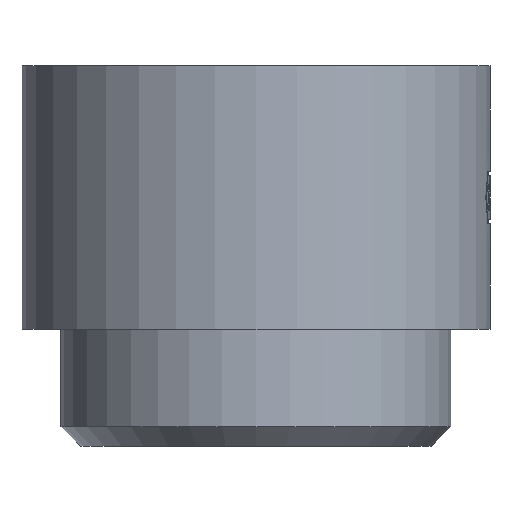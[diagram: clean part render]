
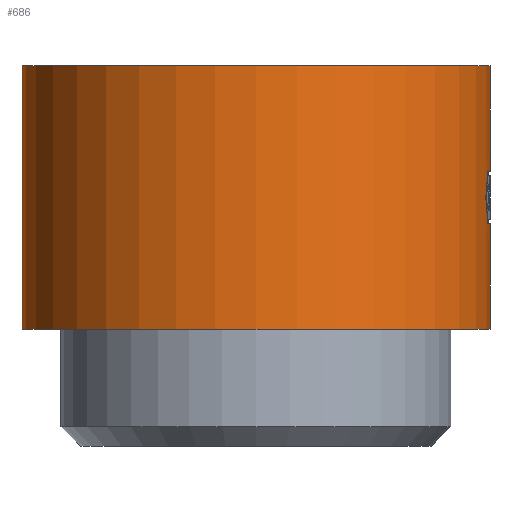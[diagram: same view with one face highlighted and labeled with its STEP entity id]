
A CAD part, front view. The second image highlights one B-rep face of the part: STEP entity #686.
In plain terms, the highlighted cylindrical face has radius 12 mm (diameter 24 mm), a partial arc.
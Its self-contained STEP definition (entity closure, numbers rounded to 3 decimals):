
#316 = VERTEX_POINT ( 'NONE', #1228 ) ;
#317 = EDGE_CURVE ( 'NONE', #365, #326, #1227, .T. ) ;
#325 = EDGE_CURVE ( 'NONE', #327, #328, #1173, .T. ) ;
#326 = VERTEX_POINT ( 'NONE', #1169 ) ;
#327 = VERTEX_POINT ( 'NONE', #1168 ) ;
#328 = VERTEX_POINT ( 'NONE', #1167 ) ;
#329 = VERTEX_POINT ( 'NONE', #1166 ) ;
#365 = VERTEX_POINT ( 'NONE', #1315 ) ;
#369 = EDGE_CURVE ( 'NONE', #316, #329, #1314, .T. ) ;
#403 = VERTEX_POINT ( 'NONE', #1206 ) ;
#503 = VERTEX_POINT ( 'NONE', #1598 ) ;
#600 = ORIENTED_EDGE ( 'NONE', *, *, #325, .F. ) ;
#609 = ORIENTED_EDGE ( 'NONE', *, *, #610, .F. ) ;
#610 = EDGE_CURVE ( 'NONE', #403, #503, #1629, .T. ) ;
#614 = ORIENTED_EDGE ( 'NONE', *, *, #369, .T. ) ;
#615 = ORIENTED_EDGE ( 'NONE', *, *, #616, .F. ) ;
#616 = EDGE_CURVE ( 'NONE', #328, #329, #1488, .T. ) ;
#641 = ORIENTED_EDGE ( 'NONE', *, *, #642, .F. ) ;
#642 = EDGE_CURVE ( 'NONE', #316, #403, #1511, .T. ) ;
#646 = EDGE_CURVE ( 'NONE', #327, #365, #1612, .T. ) ;
#647 = ORIENTED_EDGE ( 'NONE', *, *, #317, .T. ) ;
#648 = ORIENTED_EDGE ( 'NONE', *, *, #652, .F. ) ;
#649 = VERTEX_POINT ( 'NONE', #1607 ) ;
#652 = EDGE_CURVE ( 'NONE', #649, #326, #1606, .T. ) ;
#653 = ORIENTED_EDGE ( 'NONE', *, *, #654, .F. ) ;
#654 = EDGE_CURVE ( 'NONE', #503, #649, #1600, .T. ) ;
#656 = ORIENTED_EDGE ( 'NONE', *, *, #646, .T. ) ;
#659 = EDGE_LOOP ( 'NONE', ( #600, #656, #647, #648, #653, #609, #641, #614, #615 ) ) ;
#686 = ADVANCED_FACE ( 'NONE', ( #1678 ), #1685, .T. ) ;
#1166 = CARTESIAN_POINT ( 'NONE',  ( 12., 0., 0. ) ) ;
#1167 = CARTESIAN_POINT ( 'NONE',  ( -12., 0., 0. ) ) ;
#1168 = CARTESIAN_POINT ( 'NONE',  ( -12., 0., -13.5 ) ) ;
#1169 = CARTESIAN_POINT ( 'NONE',  ( 12., 0., -8.1 ) ) ;
#1170 = DIRECTION ( 'NONE',  ( 0., 0., 1. ) ) ;
#1171 = VECTOR ( 'NONE', #1170, 1000. ) ;
#1172 = CARTESIAN_POINT ( 'NONE',  ( -12., 0., 0. ) ) ;
#1173 = LINE ( 'NONE', #1172, #1171 ) ;
#1206 = CARTESIAN_POINT ( 'NONE',  ( 11.876, -1.721, -5.4 ) ) ;
#1224 = DIRECTION ( 'NONE',  ( 0., 0., 1. ) ) ;
#1225 = VECTOR ( 'NONE', #1224, 1000. ) ;
#1226 = CARTESIAN_POINT ( 'NONE',  ( 12., 0., 0. ) ) ;
#1227 = LINE ( 'NONE', #1226, #1225 ) ;
#1228 = CARTESIAN_POINT ( 'NONE',  ( 12., 0., -5.4 ) ) ;
#1311 = DIRECTION ( 'NONE',  ( 0., 0., 1. ) ) ;
#1312 = VECTOR ( 'NONE', #1311, 1000. ) ;
#1313 = CARTESIAN_POINT ( 'NONE',  ( 12., 0., 0. ) ) ;
#1314 = LINE ( 'NONE', #1313, #1312 ) ;
#1315 = CARTESIAN_POINT ( 'NONE',  ( 12., 0., -13.5 ) ) ;
#1470 = CARTESIAN_POINT ( 'NONE',  ( 11.876, -1.721, -8.1 ) ) ;
#1471 = CARTESIAN_POINT ( 'NONE',  ( 11.849, -1.908, -7.648 ) ) ;
#1472 = CARTESIAN_POINT ( 'NONE',  ( 11.817, -2.094, -7.198 ) ) ;
#1484 = DIRECTION ( 'NONE',  ( 1., 0., 0. ) ) ;
#1485 = DIRECTION ( 'NONE',  ( 0., 0., 1. ) ) ;
#1486 = CARTESIAN_POINT ( 'NONE',  ( 0., 0., 0. ) ) ;
#1487 = AXIS2_PLACEMENT_3D ( 'NONE', #1486, #1485, #1484 ) ;
#1488 = CIRCLE ( 'NONE', #1487, 12. ) ;
#1489 = CARTESIAN_POINT ( 'NONE',  ( 11.781, -2.28, -6.75 ) ) ;
#1490 = CARTESIAN_POINT ( 'NONE',  ( 11.817, -2.094, -6.302 ) ) ;
#1491 = CARTESIAN_POINT ( 'NONE',  ( 11.849, -1.908, -5.852 ) ) ;
#1502 = DIRECTION ( 'NONE',  ( -1., 0., 0. ) ) ;
#1503 = DIRECTION ( 'NONE',  ( 0., 0., -1. ) ) ;
#1504 = CARTESIAN_POINT ( 'NONE',  ( 0., 0., -5.4 ) ) ;
#1505 = AXIS2_PLACEMENT_3D ( 'NONE', #1504, #1503, #1502 ) ;
#1511 = CIRCLE ( 'NONE', #1505, 12. ) ;
#1598 = CARTESIAN_POINT ( 'NONE',  ( 11.781, -2.28, -6.75 ) ) ;
#1599 = CARTESIAN_POINT ( 'NONE',  ( 11.781, -2.28, -6.75 ) ) ;
#1600 = B_SPLINE_CURVE_WITH_KNOTS ( 'NONE', 3,
 ( #1599, #1472, #1471, #1470 ),
 .UNSPECIFIED., .F., .F.,
 ( 4, 4 ),
 ( 0., 1. ),
 .UNSPECIFIED. ) ;
#1602 = DIRECTION ( 'NONE',  ( 1., 0., 0. ) ) ;
#1603 = DIRECTION ( 'NONE',  ( 0., 0., 1. ) ) ;
#1604 = CARTESIAN_POINT ( 'NONE',  ( 0., 0., -8.1 ) ) ;
#1605 = AXIS2_PLACEMENT_3D ( 'NONE', #1604, #1603, #1602 ) ;
#1606 = CIRCLE ( 'NONE', #1605, 12. ) ;
#1607 = CARTESIAN_POINT ( 'NONE',  ( 11.876, -1.721, -8.1 ) ) ;
#1608 = DIRECTION ( 'NONE',  ( 1., 0., 0. ) ) ;
#1609 = DIRECTION ( 'NONE',  ( 0., 0., 1. ) ) ;
#1610 = CARTESIAN_POINT ( 'NONE',  ( 0., 0., -13.5 ) ) ;
#1611 = AXIS2_PLACEMENT_3D ( 'NONE', #1610, #1609, #1608 ) ;
#1612 = CIRCLE ( 'NONE', #1611, 12. ) ;
#1628 = CARTESIAN_POINT ( 'NONE',  ( 11.876, -1.721, -5.4 ) ) ;
#1629 = B_SPLINE_CURVE_WITH_KNOTS ( 'NONE', 3,
 ( #1628, #1491, #1490, #1489 ),
 .UNSPECIFIED., .F., .F.,
 ( 4, 4 ),
 ( 0., 1. ),
 .UNSPECIFIED. ) ;
#1678 = FACE_OUTER_BOUND ( 'NONE', #659, .T. ) ;
#1679 = AXIS2_PLACEMENT_3D ( 'NONE', #1682, #1684, #1683 ) ;
#1682 = CARTESIAN_POINT ( 'NONE',  ( 0., 0., 0. ) ) ;
#1683 = DIRECTION ( 'NONE',  ( 1., 0., 0. ) ) ;
#1684 = DIRECTION ( 'NONE',  ( 0., 0., 1. ) ) ;
#1685 = CYLINDRICAL_SURFACE ( 'NONE', #1679, 12. ) ;
